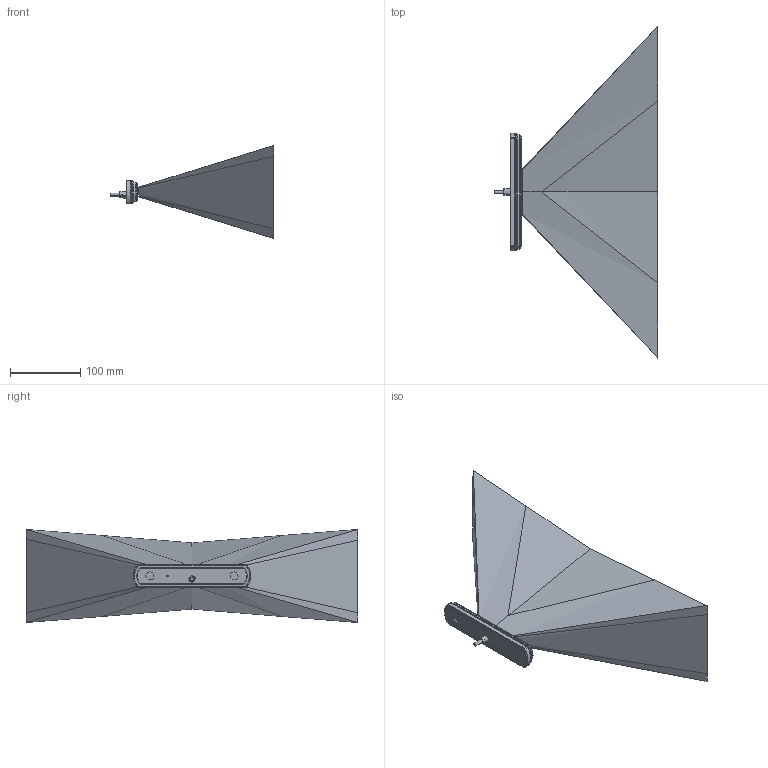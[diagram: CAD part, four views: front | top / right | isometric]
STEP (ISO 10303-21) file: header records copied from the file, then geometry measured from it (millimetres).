
FILE_DESCRIPTION(('CATIA V5 STEP Exchange','CAx-IF Rec.Pracs.--- Model Styling and Organization---1.5--- 2016-08-15','CAx-IF Rec.Pracs.---Supplemental Geometry---1.0---2011-11-01','CAx-IF Rec.Pracs.--- Composite Materials ---1.1---2010-07-15'),'2;1');
FILE_NAME('E:\tmp\ddx\2011205\HELLA_3D_data_LED_side_marker_lamp_SHAPELINE_tech_2PS-013-300.stp','2022-01-18T07:02:33+00:00',('none'),('none'),'CATIA Version 5-6 Release 2020 SP3 HF9','CATIA V5 STEP AP214 Edition 3 v2','none');
FILE_SCHEMA(('AUTOMOTIVE_DESIGN { 1 0 10303 214 3 1 1 1 }'));
Length unit declared in the file: millimetre
Products named in the file (1): 10002759084_D10_001
Bounding box: 232.4 x 472.69 x 132.45 mm (x, y, z)
Volume: 73810.1 mm3; surface area: 168307 mm2
Topology: 1 solids, 2 shells, 364 faces, 850 edges, 499 vertices
Faces by surface type: bspline 190, cylinder 63, plane 55, cone 28, torus 20, extrusion 6, sphere 2
Entity records: 22671 total; most frequent: CARTESIAN_POINT 16375, ORIENTED_EDGE 1676, EDGE_CURVE 850, B_SPLINE_CURVE_WITH_KNOTS 564, DIRECTION 553, VERTEX_POINT 499, EDGE_LOOP 377, ADVANCED_FACE 364
